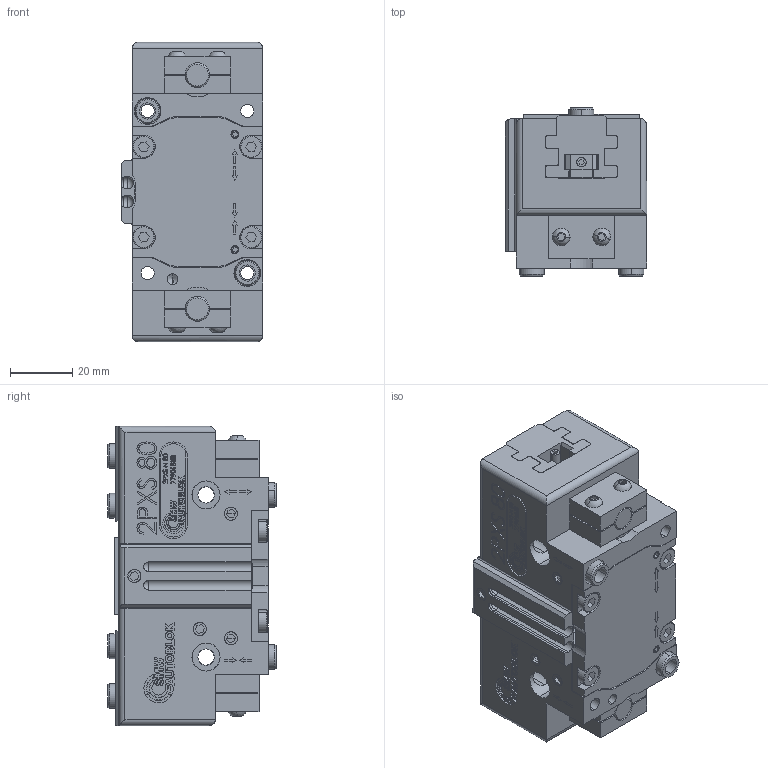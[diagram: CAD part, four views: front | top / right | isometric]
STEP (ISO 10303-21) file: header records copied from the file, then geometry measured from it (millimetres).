
FILE_DESCRIPTION (( 'STEP AP203' ), '1' );
FILE_NAME ('77901858_FULL OPEN 2PXS-N 100.STEP', '2024-02-22T10:29:38', ( '' ), ( '' ), 'SwSTEP 2.0', 'SolidWorks 2023', '' );
FILE_SCHEMA (( 'CONFIG_CONTROL_DESIGN' ));
Length unit declared in the file: millimetre
Products named in the file (43): 90235863; 71113707_Semplice; 90025860; 71311237; 90225963_a; 90035860; 71112110_semplice; 71109624_Semplice; 71311224; 71842009; 90496463; 71310219_A; 90305863; 71113717_Semplice; 90385863; 77901858_FULL OPEN 2PXS-N 100; 71113805; 71119628_semplice; 90166463; 90015863; 71200507; 90215863; 90405863_90405860; 90095863; 90285863; 90045863
Assembly tree (51 placements, depth 2):
  90025860
  71311237
  71311224
  71842009
  71113717_Semplice
Bounding box: 45.5 x 54 x 96 mm (x, y, z)
Volume: 96080.3 mm3; surface area: 61784.5 mm2
Topology: 55 solids, 55 shells, 3167 faces, 8381 edges, 5515 vertices
Faces by surface type: plane 1506, cylinder 1013, bspline 492, cone 136, sphere 12, torus 8
Entity records: 127201 total; most frequent: CARTESIAN_POINT 49432, ORIENTED_EDGE 15870, DIRECTION 13993, EDGE_CURVE 7935, VERTEX_POINT 5247, LINE 4897, VECTOR 4897, AXIS2_PLACEMENT_3D 4548
